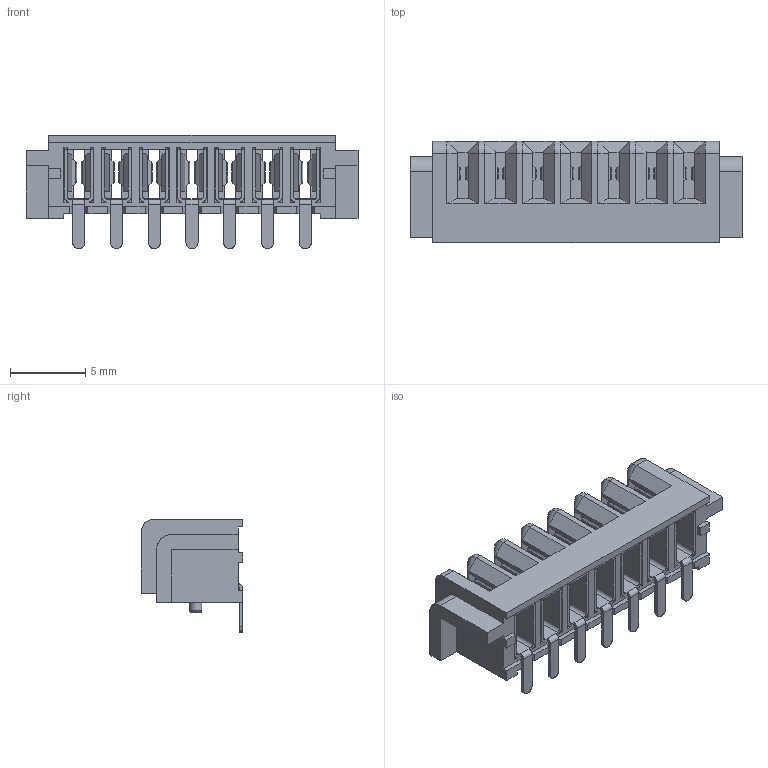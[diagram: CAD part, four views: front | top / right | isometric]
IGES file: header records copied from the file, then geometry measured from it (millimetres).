
Start section: SolidWorks IGES file using analytic representation for surfaces
Global section: file name: C:\Users\hsuan\Desktop\°õ¦æ§@·~\RFQ³æ\2026¦~\6¤ë\RB126060094\TSB0-02072-00XXA[3D].IGS; native system: SolidWorks 2022; preprocessor: SolidWorks 2022; author: hsuan; date: 260622.134550; units: millimetre
Bounding box: 22 x 6.7 x 7.5 mm (x, y, z)
Surface area: 1515.2 mm2 (no closed solid volume)
Topology: 0 solids, 0 shells, 1006 faces, 7025 edges, 7025 vertices
Faces by surface type: bspline 698, revolution 308
